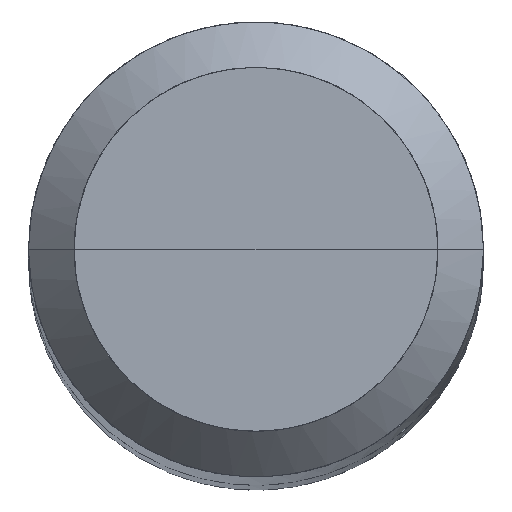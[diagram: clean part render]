
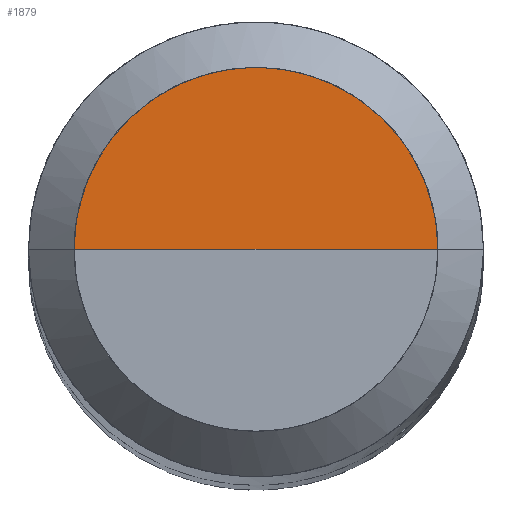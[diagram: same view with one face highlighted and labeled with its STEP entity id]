
A CAD part, top view. The second image highlights one B-rep face of the part: STEP entity #1879.
In plain terms, the highlighted free-form (B-spline) face has degree [1, 2] with [2, 5] control points.
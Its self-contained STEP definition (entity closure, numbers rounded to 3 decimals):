
#1683=CARTESIAN_POINT('',(4.8,0.0,125.0));
#1684=CARTESIAN_POINT('',(4.8,4.8,125.0));
#1685=CARTESIAN_POINT('',(0.0,4.8,125.0));
#1686=CARTESIAN_POINT('',(-4.8,4.8,125.0));
#1687=CARTESIAN_POINT('',(-4.8,0.0,125.0));
#1688=CARTESIAN_POINT('',(0.0,0.0,125.0));
#1864=(
BOUNDED_SURFACE()
B_SPLINE_SURFACE(1,2,(
(#1683,#1684,#1685,#1686,#1687),
(#1688,#1688,#1688,#1688,#1688)
), .UNSPECIFIED.,.F.,.F.,.F.)
B_SPLINE_SURFACE_WITH_KNOTS((2,2),(3,2,3),(
0.0,1.0),(
0.0,0.5,1.0), .UNSPECIFIED.)
GEOMETRIC_REPRESENTATION_ITEM()
RATIONAL_B_SPLINE_SURFACE(((1.0,0.707,1.0,0.707,1.0),
(1.0,0.707,1.0,0.707,1.0)
))
REPRESENTATION_ITEM('')
SURFACE()
);
#1865=(
BOUNDED_CURVE()
B_SPLINE_CURVE(2,(#1687,#1686,#1685,#1684,#1683),.UNSPECIFIED.,.F.,.F.)
B_SPLINE_CURVE_WITH_KNOTS((3,2,3),
(0.0,0.5,1.0),.UNSPECIFIED.)
CURVE()
GEOMETRIC_REPRESENTATION_ITEM()
RATIONAL_B_SPLINE_CURVE((1.0,0.707,1.0,0.707,1.0))
REPRESENTATION_ITEM('')
);
#1866=(
BOUNDED_CURVE()
B_SPLINE_CURVE(1,(#1683,#1688),.UNSPECIFIED.,.F.,.F.)
B_SPLINE_CURVE_WITH_KNOTS((2,2),
(0.0,1.0),.UNSPECIFIED.)
CURVE()
GEOMETRIC_REPRESENTATION_ITEM()
RATIONAL_B_SPLINE_CURVE((1.0,1.0))
REPRESENTATION_ITEM('')
);
#1867=(
BOUNDED_CURVE()
B_SPLINE_CURVE(1,(#1688,#1687),.UNSPECIFIED.,.F.,.F.)
B_SPLINE_CURVE_WITH_KNOTS((2,2),
(0.0,1.0),.UNSPECIFIED.)
CURVE()
GEOMETRIC_REPRESENTATION_ITEM()
RATIONAL_B_SPLINE_CURVE((1.0,1.0))
REPRESENTATION_ITEM('')
);
#1868=VERTEX_POINT('',#1683);
#1869=VERTEX_POINT('',#1687);
#1870=VERTEX_POINT('',#1688);
#1871=EDGE_CURVE('',#1869,#1868,#1865,.T.);
#1872=EDGE_CURVE('',#1868,#1870,#1866,.T.);
#1873=EDGE_CURVE('',#1870,#1869,#1867,.T.);
#1874=ORIENTED_EDGE('',*,*,#1871,.T.);
#1875=ORIENTED_EDGE('',*,*,#1872,.T.);
#1876=ORIENTED_EDGE('',*,*,#1873,.T.);
#1877=EDGE_LOOP('',(#1874,#1875,#1876));
#1878=FACE_OUTER_BOUND('',#1877,.T.);
#1879=ADVANCED_FACE('',(#1878),#1864,.T.);
